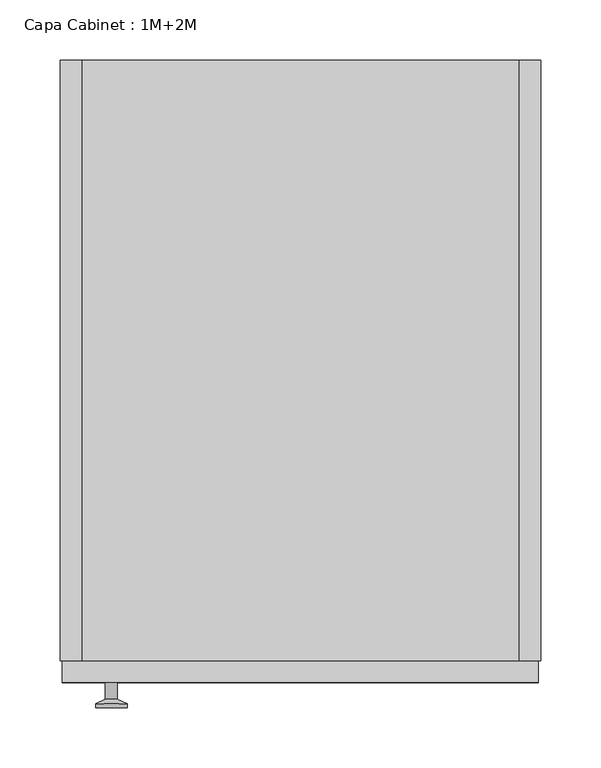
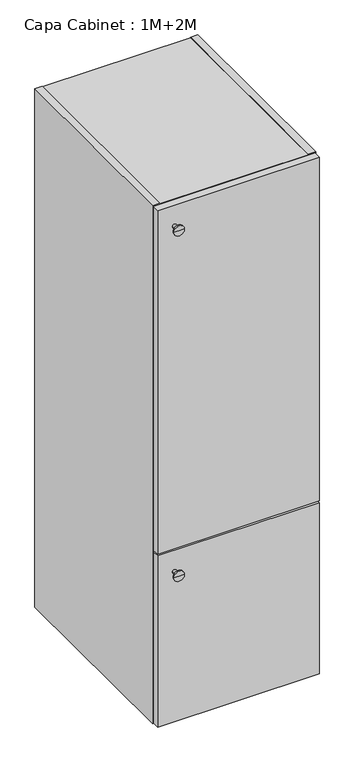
"""IFC4 building model written with IfcOpenShell, lengths in millimetres: furniture geometry, Capa Cabinet : 1M+2M."""

from ifc_helpers import new_model, si_unit, frame, origin, place, context, project, spatial, polyline, circle_curve, outline, extrude, faceted_brep, source, transform, mapped, element, save
from ifc_brep_helpers import plane_surface, cylinder_surface, revolved_surface, advanced_brep


def capa_cabinet_1m_2m_ab3a3a71(model_context):
    return source(origin(), model_context, "Body", "SolidModel", [
        extrude(outline(polyline([(182.0, 0.0), (-182.0, 0.0), (-182.0, 490.0), (182.0, 490.0), (182.0, 0.0)])), frame((0.0, 0.0, 889.0), z_axis=(0.0, 0.0, 1.0), x_axis=(1.0, 0.0, 0.0)), (0.0, 0.0, 1.0), 14.0),
        extrude(outline(polyline([(182.0, 0.0), (-182.0, 0.0), (-182.0, 490.0), (182.0, 490.0), (182.0, 0.0)])), frame((0.0, 0.0, 441.0), z_axis=(0.0, 0.0, 1.0), x_axis=(1.0, 0.0, 0.0)), (0.0, 0.0, 1.0), 14.0),
        faceted_brep([(-182.0, 500.0, 1344.0), (-182.0, 500.0, 1343.0), (182.0, 500.0, 1343.0), (182.0, 500.0, 1344.0), (200.0, 500.0, 1344.0), (200.0, 500.0, 0.0), (182.0, 500.0, 0.0), (182.0, 500.0, 1.0), (-182.0, 500.0, 1.0), (-182.0, 500.0, 0.0), (-200.0, 500.0, 0.0), (-200.0, 500.0, 1344.0), (182.0, 490.0, 19.0), (182.0, 490.0, 1325.0), (-182.0, 490.0, 1325.0), (-182.0, 490.0, 19.0), (-182.0, 0.0, 1344.0), (-200.0, 0.0, 1344.0), (-200.0, 0.0, 0.0), (-182.0, 0.0, 0.0), (-182.0, 0.0, 1.0), (182.0, 0.0, 1.0), (182.0, 0.0, 0.0), (200.0, 0.0, 0.0), (200.0, 0.0, 1344.0), (182.0, 0.0, 1344.0), (182.0, 0.0, 1343.0), (-182.0, 0.0, 1343.0), (182.0, 0.0, 1325.0), (182.0, 0.0, 19.0), (-182.0, 0.0, 19.0), (-182.0, 0.0, 1325.0)], [[[0, 1, 2, 3, 4, 5, 6, 7, 8, 9, 10, 11]], [[12, 13, 14, 15]], [[16, 17, 18, 19, 20, 21, 22, 23, 24, 25, 26, 27], [28, 29, 30, 31]], [[17, 16, 0, 11]], [[18, 17, 11, 10]], [[23, 22, 6, 5]], [[24, 23, 5, 4]], [[19, 18, 10, 9]], [[20, 19, 9, 8]], [[21, 20, 8, 7]], [[22, 21, 7, 6]], [[25, 24, 4, 3]], [[26, 25, 3, 2]], [[27, 26, 2, 1]], [[16, 27, 1, 0]], [[29, 28, 13, 12]], [[30, 29, 12, 15]], [[31, 30, 15, 14]], [[28, 31, 14, 13]]]),
        extrude(outline(polyline([(198.0, -18.0), (-198.0, -18.0), (-198.0, 0.0), (198.0, 0.0), (198.0, -18.0)])), frame((0.0, 0.0, 450.0), z_axis=(0.0, 0.0, 1.0), x_axis=(1.0, 0.0, 0.0)), (0.0, 0.0, 1.0), 892.0),
        advanced_brep(
        [(-157.2922597, -18.0, 1288.0), (-152.2922597, -18.0, 1288.0), (-162.2922597, -18.0, 1288.0), (-170.2922597, -38.997134, 1288.0), (-144.2922597, -38.997134, 1288.0), (-157.2922597, -38.997134, 1288.0), (-170.2922597, -35.5419417, 1288.0), (-144.2922597, -35.5419417, 1288.0), (-162.2922597, -31.8114804, 1288.0), (-152.2922597, -31.8114804, 1288.0)],
        [
            (0, 1),
            (1, 2, circle_curve(frame((-157.2922597, -18.0, 1288.0), z_axis=(0.0, 1.0, 0.0), x_axis=(1.0, 0.0, 0.0)), 5.0)),
            (2, 0),
            (2, 1, circle_curve(frame((-157.2922597, -18.0, 1288.0), z_axis=(0.0, 1.0, 0.0), x_axis=(1.0, 0.0, 0.0)), 5.0)),
            (3, 4, circle_curve(frame((-157.2922597, -38.997134, 1288.0), z_axis=(0.0, -1.0, 0.0), x_axis=(1.0, 0.0, 0.0)), 13.0)),
            (4, 5),
            (5, 3),
            (4, 3, circle_curve(frame((-157.2922597, -38.997134, 1288.0), z_axis=(0.0, -1.0, 0.0), x_axis=(1.0, 0.0, 0.0)), 13.0)),
            (6, 7, circle_curve(frame((-157.2922597, -35.5419417, 1288.0), z_axis=(0.0, -1.0, 0.0), x_axis=(1.0, 0.0, 0.0)), 13.0)),
            (7, 4),
            (3, 6),
            (7, 6, circle_curve(frame((-157.2922597, -35.5419417, 1288.0), z_axis=(0.0, -1.0, 0.0), x_axis=(1.0, 0.0, 0.0)), 13.0)),
            (8, 9, circle_curve(frame((-157.2922597, -31.8114804, 1288.0), z_axis=(0.0, -1.0, 0.0), x_axis=(1.0, 0.0, 0.0)), 5.0)),
            (9, 7),
            (6, 8),
            (9, 8, circle_curve(frame((-157.2922597, -31.8114804, 1288.0), z_axis=(0.0, -1.0, 0.0), x_axis=(1.0, 0.0, 0.0)), 5.0)),
            (1, 9),
            (8, 2),
        ],
        [
            plane_surface(frame((-157.2922597, -18.0, 1288.0), z_axis=(0.0, 1.0, 0.0), x_axis=(1.0, 0.0, 0.0))),
            plane_surface(frame((-157.2922597, -38.997134, 1288.0), z_axis=(0.0, -1.0, 0.0), x_axis=(1.0, 0.0, 0.0))),
            cylinder_surface(frame((-157.2922597, -38.997134, 1288.0), z_axis=(0.0, 1.0, 0.0), x_axis=(1.0, 0.0, 0.0)), 13.0),
            revolved_surface(polyline([(-144.2922597, -35.5419417, 1288.0), (-152.2922597, -31.8114804, 1288.0)]), (-157.2922597, -38.997134, 1288.0), (0.0, 1.0, 0.0)),
            cylinder_surface(frame((-157.2922597, -38.997134, 1288.0), z_axis=(0.0, 1.0, 0.0), x_axis=(1.0, 0.0, 0.0)), 5.0),
        ],
        [
            (0, [[1, 2, 3]]),
            (0, [[-3, 4, -1]]),
            (1, [[5, 6, 7]]),
            (1, [[8, -7, -6]]),
            (2, [[9, 10, -5, 11]]),
            (2, [[12, -11, -8, -10]]),
            (3, [[13, 14, -9, 15]]),
            (3, [[16, -15, -12, -14]]),
            (4, [[-2, 17, -13, 18]]),
            (4, [[-4, -18, -16, -17]]),
        ],
    ),
        extrude(outline(polyline([(198.0, -18.0), (-198.0, -18.0), (-198.0, 0.0), (198.0, 0.0), (198.0, -18.0)])), frame((0.0, 0.0, 2.0), z_axis=(0.0, 0.0, 1.0), x_axis=(1.0, 0.0, 0.0)), (0.0, 0.0, 1.0), 444.0),
        advanced_brep(
        [(-157.2922597, -18.0, 392.0), (-152.2922597, -18.0, 392.0), (-162.2922597, -18.0, 392.0), (-170.2922597, -38.997134, 392.0), (-144.2922597, -38.997134, 392.0), (-157.2922597, -38.997134, 392.0), (-170.2922597, -35.5419417, 392.0), (-144.2922597, -35.5419417, 392.0), (-162.2922597, -31.8114804, 392.0), (-152.2922597, -31.8114804, 392.0)],
        [
            (0, 1),
            (1, 2, circle_curve(frame((-157.2922597, -18.0, 392.0), z_axis=(0.0, 1.0, 0.0), x_axis=(1.0, 0.0, 0.0)), 5.0)),
            (2, 0),
            (2, 1, circle_curve(frame((-157.2922597, -18.0, 392.0), z_axis=(0.0, 1.0, 0.0), x_axis=(1.0, 0.0, 0.0)), 5.0)),
            (3, 4, circle_curve(frame((-157.2922597, -38.997134, 392.0), z_axis=(0.0, -1.0, 0.0), x_axis=(1.0, 0.0, 0.0)), 13.0)),
            (4, 5),
            (5, 3),
            (4, 3, circle_curve(frame((-157.2922597, -38.997134, 392.0), z_axis=(0.0, -1.0, 0.0), x_axis=(1.0, 0.0, 0.0)), 13.0)),
            (6, 7, circle_curve(frame((-157.2922597, -35.5419417, 392.0), z_axis=(0.0, -1.0, 0.0), x_axis=(1.0, 0.0, 0.0)), 13.0)),
            (7, 4),
            (3, 6),
            (7, 6, circle_curve(frame((-157.2922597, -35.5419417, 392.0), z_axis=(0.0, -1.0, 0.0), x_axis=(1.0, 0.0, 0.0)), 13.0)),
            (8, 9, circle_curve(frame((-157.2922597, -31.8114804, 392.0), z_axis=(0.0, -1.0, 0.0), x_axis=(1.0, 0.0, 0.0)), 5.0)),
            (9, 7),
            (6, 8),
            (9, 8, circle_curve(frame((-157.2922597, -31.8114804, 392.0), z_axis=(0.0, -1.0, 0.0), x_axis=(1.0, 0.0, 0.0)), 5.0)),
            (1, 9),
            (8, 2),
        ],
        [
            plane_surface(frame((-157.2922597, -18.0, 392.0), z_axis=(0.0, 1.0, 0.0), x_axis=(1.0, 0.0, 0.0))),
            plane_surface(frame((-157.2922597, -38.997134, 392.0), z_axis=(0.0, -1.0, 0.0), x_axis=(1.0, 0.0, 0.0))),
            cylinder_surface(frame((-157.2922597, -38.997134, 392.0), z_axis=(0.0, 1.0, 0.0), x_axis=(1.0, 0.0, 0.0)), 13.0),
            revolved_surface(polyline([(-144.2922597, -35.5419417, 392.0), (-152.2922597, -31.8114804, 392.0)]), (-157.2922597, -38.997134, 392.0), (0.0, 1.0, 0.0)),
            cylinder_surface(frame((-157.2922597, -38.997134, 392.0), z_axis=(0.0, 1.0, 0.0), x_axis=(1.0, 0.0, 0.0)), 5.0),
        ],
        [
            (0, [[1, 2, 3]]),
            (0, [[-3, 4, -1]]),
            (1, [[5, 6, 7]]),
            (1, [[8, -7, -6]]),
            (2, [[9, 10, -5, 11]]),
            (2, [[12, -11, -8, -10]]),
            (3, [[13, 14, -9, 15]]),
            (3, [[16, -15, -12, -14]]),
            (4, [[-2, 17, -13, 18]]),
            (4, [[-4, -18, -16, -17]]),
        ],
    ),
    ])


if __name__ == "__main__":
    model = new_model("IFC4")
    model_context = context("Model", 3, world=origin())
    ifc_project = project(units=[si_unit("LENGTHUNIT", "METRE", prefix="MILLI")], contexts=[model_context])
    site = spatial("IfcSite", under=ifc_project)
    building = spatial("IfcBuilding", under=site)
    placement = place(None, origin())
    capa_cabinet_1m_2m_shape = capa_cabinet_1m_2m_ab3a3a71(model_context)
    element("IfcFurniture", 1, ObjectType="Capa Cabinet : 1M+2M", at=placement, inside=building, context=model_context, shape_type="MappedRepresentation", body=[
        mapped(capa_cabinet_1m_2m_shape, transform((0.0, 0.0, 0.0), x_axis=(1.0, 0.0, 0.0), y_axis=(0.0, 1.0, 0.0), z_axis=(0.0, 0.0, 1.0))),
    ])
    save(model, "model.ifc")
